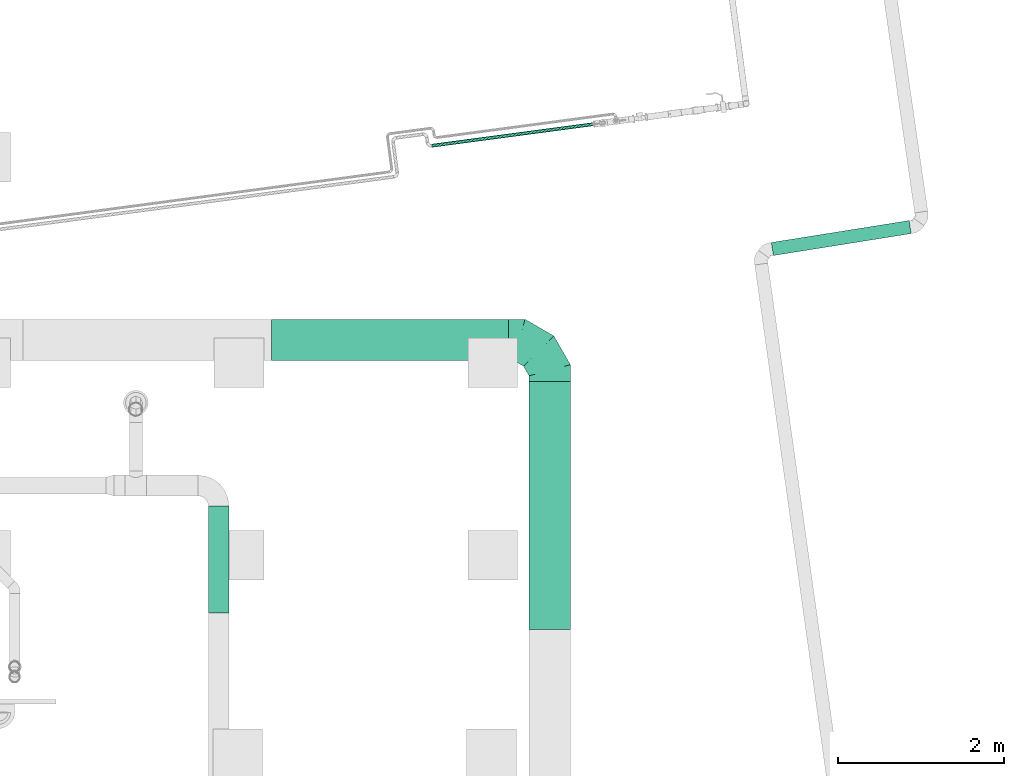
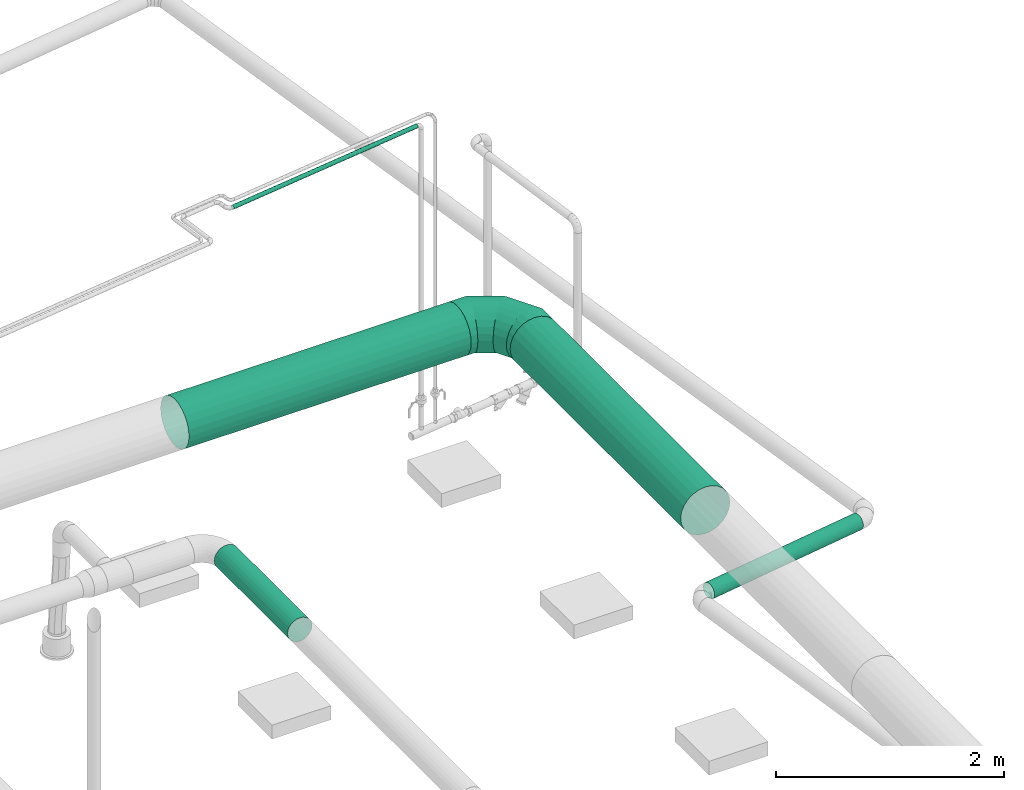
# One storey, part 228 of 374: 5 flow segments, 1 flow fitting.
"""IFC2X3 building model written with IfcOpenShell, lengths in metres."""

from ifc_helpers import new_model, si_unit, direction, origin, place, context, subcontext, project, spatial, open_shell, surface_model, source, transform, mapped, element, save


model = new_model("IFC2X3")

# Units and contexts
model_context = context("Model", 3, precision=1e-05, world=origin(), true_north=direction((-0.4480736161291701, 0.8939966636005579)))
body_context = subcontext(model_context, "Body", "Model", "MODEL_VIEW")
ifc_project = project(units=[si_unit("LENGTHUNIT", "METRE"), si_unit("AREAUNIT", "SQUARE_METRE"), si_unit("VOLUMEUNIT", "CUBIC_METRE"), si_unit("PLANEANGLEUNIT", "RADIAN"), si_unit("THERMODYNAMICTEMPERATUREUNIT", "KELVIN"), si_unit("MASSUNIT", "GRAM", prefix="KILO"), si_unit("TIMEUNIT", "SECOND")], contexts=[model_context])

# Site, building, storey
site_placement = place(None, origin())
site = spatial("IfcSite", under=ifc_project, at=site_placement, Name="Site 1", CompositionType="ELEMENT")
building_placement = place(site_placement, origin())
building = spatial("IfcBuilding", under=site, at=building_placement, Name="Undefined", CompositionType="ELEMENT")
storey_placement = place(building_placement, origin())
storey = spatial("IfcBuildingStorey", under=building, at=storey_placement, Name="Rez de chauss\x8ee", CompositionType="ELEMENT", Elevation=0.0)

# Flow segments
shared_shape_1 = source(origin(), body_context, "Body", "SurfaceModel", [
    surface_model("IfcFaceBasedSurfaceModel", [(1.869014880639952e-07, 0.02088419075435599, 6.66133815e-16), (0.0, 0.0, 0.0), (1.6850571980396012, -8.8817842e-16, 6.66133815e-16), (1.6850573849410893, 0.02088419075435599, 6.66133815e-16), (-1.741644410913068e-07, -0.020172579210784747, -0.0054052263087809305), (1.6850570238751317, -0.02017257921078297, -0.005405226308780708), (-3.237228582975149e-07, -0.03825881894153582, -0.01584732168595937), (1.6850568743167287, -0.03825881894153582, -0.01584732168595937), (-4.3848305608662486e-07, -0.05302617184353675, -0.030614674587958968), (1.685056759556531, -0.05302617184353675, -0.030614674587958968), (-5.106243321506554e-07, -0.06346826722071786, -0.04870091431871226), (1.6850566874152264, -0.06346826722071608, -0.04870091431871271), (-5.352303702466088e-07, -0.06887349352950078, -0.06887349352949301), (1.6850566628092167, -0.06887349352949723, -0.06887349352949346), (-5.106243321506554e-07, -0.0688734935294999, -0.08975768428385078), (1.6850566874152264, -0.06887349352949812, -0.08975768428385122), (-4.3848305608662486e-07, -0.06346826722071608, -0.10993026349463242), (1.685056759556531, -0.06346826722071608, -0.10993026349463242), (-3.237228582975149e-07, -0.05302617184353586, -0.1280165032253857), (1.6850568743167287, -0.05302617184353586, -0.1280165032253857), (-1.741644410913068e-07, -0.038258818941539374, -0.14278385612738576), (1.6850570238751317, -0.0382588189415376, -0.1427838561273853), (0.0, -0.020172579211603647, -0.15322595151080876), (1.6850571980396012, -0.02017257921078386, -0.15322595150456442), (1.869014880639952e-07, -2.664535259e-15, -0.15863117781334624), (1.6850573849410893, -2.664535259e-15, -0.15863117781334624), (3.738029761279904e-07, 0.02088419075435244, -0.15863117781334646), (1.685057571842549, 0.020884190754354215, -0.1586311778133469), (5.479674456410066e-07, 0.04105676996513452, -0.15322595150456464), (1.6850577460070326, 0.0410567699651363, -0.15322595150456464), (6.9752584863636e-07, 0.05914300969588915, -0.14278385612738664), (1.6850578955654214, 0.0591430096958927, -0.14278385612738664), (8.1228604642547e-07, 0.07391036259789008, -0.12801650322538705), (1.6850580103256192, 0.07391036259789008, -0.1280165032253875), (8.844273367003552e-07, 0.08435245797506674, -0.1099302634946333), (1.6850580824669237, 0.08435245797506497, -0.1099302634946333), (9.090333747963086e-07, 0.08975768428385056, -0.08975768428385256), (1.6850581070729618, 0.08975768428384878, -0.08975768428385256), (8.844273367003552e-07, 0.08975768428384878, -0.06887349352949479), (1.6850580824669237, 0.089757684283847, -0.06887349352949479), (8.1228604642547e-07, 0.0843524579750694, -0.048700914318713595), (1.6850580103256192, 0.0843524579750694, -0.04870091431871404), (6.9752584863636e-07, 0.07391036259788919, -0.0306146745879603), (1.6850578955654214, 0.07391036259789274, -0.0306146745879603), (5.479674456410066e-07, 0.05914300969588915, -0.015847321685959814), (1.6850577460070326, 0.059143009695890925, -0.015847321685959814), (3.738029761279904e-07, 0.04105676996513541, -0.0054052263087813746), (1.685057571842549, 0.041056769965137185, -0.005405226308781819)], [open_shell([[[0, 1, 2, 3]], [[1, 4, 5, 2]], [[4, 6, 7, 5]], [[6, 8, 9, 7]], [[8, 10, 11, 9]], [[10, 12, 13, 11]], [[12, 14, 15, 13]], [[14, 16, 17, 15]], [[16, 18, 19, 17]], [[18, 20, 21, 19]], [[20, 22, 23, 21]], [[22, 24, 25, 23]], [[24, 26, 27, 25]], [[26, 28, 29, 27]], [[28, 30, 31, 29]], [[30, 32, 33, 31]], [[32, 34, 35, 33]], [[34, 36, 37, 35]], [[36, 38, 39, 37]], [[38, 40, 41, 39]], [[40, 42, 43, 41]], [[42, 44, 45, 43]], [[44, 46, 47, 45]], [[46, 0, 3, 47]]])]),
])
flow_segment_1_placement = place(storey_placement, origin())
element("IfcFlowSegment", 1, at=flow_segment_1_placement, inside=storey, Name="PE-HD tuyau", ObjectType="PE-HD tuyau", context=body_context, shape_type="MappedRepresentation", body=[
    mapped(shared_shape_1, transform((67.9837818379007, 18.792402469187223, -0.7163137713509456), x_axis=(0.9875290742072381, 0.15743674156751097, 0.0), y_axis=(-0.15608984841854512, 0.9790806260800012, 0.13052619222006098), z_axis=(0.020549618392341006, -0.12889840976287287, 0.9914448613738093))),
])
shared_shape_2 = source(origin(), body_context, "Body", "SurfaceModel", [
    surface_model("IfcFaceBasedSurfaceModel", [(0.0, 0.03263154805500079, 0.0), (0.0, 0.0, 0.0), (1.2899986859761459, -7.105427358e-15, 0.0), (1.2899986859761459, 0.032631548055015, 1.776356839e-15), (0.0, -0.031519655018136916, -0.008445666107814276), (1.2899986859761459, -0.03151965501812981, -0.008445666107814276), (0.0, -0.05977940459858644, -0.024761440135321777), (1.2899986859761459, -0.05977940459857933, -0.02476144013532), (0.0, -0.08285339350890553, -0.047835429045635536), (1.2899986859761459, -0.08285339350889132, -0.047835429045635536), (0.0, -0.09916916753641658, -0.07609517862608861), (1.2899986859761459, -0.09916916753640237, -0.07609517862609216), (0.0, -0.1076148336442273, -0.10761483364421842), (1.2899986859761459, -0.10761483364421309, -0.1076148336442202), (0.0, -0.1076148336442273, -0.14024638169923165), (1.2899986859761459, -0.10761483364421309, -0.14024638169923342), (0.0, -0.09916916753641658, -0.17176603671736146), (1.2899986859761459, -0.09916916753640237, -0.17176603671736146), (0.0, -0.08285339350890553, -0.2000257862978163), (1.2899986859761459, -0.08285339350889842, -0.2000257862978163), (0.0, -0.059779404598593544, -0.22309977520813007), (1.2899986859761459, -0.05977940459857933, -0.22309977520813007), (0.0, -0.03151965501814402, -0.23941554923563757), (1.2899986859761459, -0.03151965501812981, -0.23941554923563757), (0.0, -1.4210854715e-14, -0.24786121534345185), (1.2899986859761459, 0.0, -0.24786121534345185), (0.0, 0.03263154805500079, -0.24786121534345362), (1.2899986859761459, 0.032631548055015, -0.24786121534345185), (0.0, 0.0641512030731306, -0.23941554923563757), (1.2899986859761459, 0.06415120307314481, -0.23941554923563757), (0.0, 0.09241095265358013, -0.22309977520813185), (1.2899986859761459, 0.09241095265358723, -0.2230997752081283), (0.0, 0.11548494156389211, -0.2000257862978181), (1.2899986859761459, 0.11548494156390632, -0.20002578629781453), (0.0, 0.13180071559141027, -0.171766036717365), (1.2899986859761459, 0.13180071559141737, -0.17176603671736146), (0.0, 0.140246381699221, -0.1402463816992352), (1.2899986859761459, 0.1402463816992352, -0.14024638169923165), (0.0, 0.140246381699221, -0.10761483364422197), (1.2899986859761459, 0.1402463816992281, -0.10761483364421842), (0.0, 0.13180071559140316, -0.07609517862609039), (1.2899986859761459, 0.13180071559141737, -0.07609517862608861), (0.0, 0.11548494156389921, -0.04783542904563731), (1.2899986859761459, 0.11548494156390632, -0.04783542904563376), (0.0, 0.09241095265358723, -0.024761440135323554), (1.2899986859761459, 0.09241095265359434, -0.024761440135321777), (0.0, 0.06415120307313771, -0.008445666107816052), (1.2899986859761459, 0.06415120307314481, -0.008445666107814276)], [open_shell([[[0, 1, 2, 3]], [[1, 4, 5, 2]], [[4, 6, 7, 5]], [[6, 8, 9, 7]], [[8, 10, 11, 9]], [[10, 12, 13, 11]], [[12, 14, 15, 13]], [[14, 16, 17, 15]], [[16, 18, 19, 17]], [[18, 20, 21, 19]], [[20, 22, 23, 21]], [[22, 24, 25, 23]], [[24, 26, 27, 25]], [[26, 28, 29, 27]], [[28, 30, 31, 29]], [[30, 32, 33, 31]], [[32, 34, 35, 33]], [[34, 36, 37, 35]], [[36, 38, 39, 37]], [[38, 40, 41, 39]], [[40, 42, 43, 41]], [[42, 44, 45, 43]], [[44, 46, 47, 45]], [[46, 0, 3, 47]]])]),
])
flow_segment_2_placement = place(storey_placement, origin())
element("IfcFlowSegment", 2, at=flow_segment_2_placement, inside=storey, Name="Tube", ObjectType="Tube", context=body_context, shape_type="MappedRepresentation", body=[
    mapped(shared_shape_2, transform((61.32183991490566, 14.414999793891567, 3.920740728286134), x_axis=(0.0, 1.0, 0.0), y_axis=(-0.9914448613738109, 0.0, 0.1305261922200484), z_axis=(0.1305261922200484, 0.0, 0.9914448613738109))),
])
shared_shape_3 = source(origin(), body_context, "Body", "SurfaceModel", [
    surface_model("IfcFaceBasedSurfaceModel", [(0.0, 0.0652630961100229, -3.552713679e-15), (0.0, 0.0, 0.0), (2.8650125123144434, 3.552713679e-15, -4.4408921e-16), (2.8650125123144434, 0.0652630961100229, -4.4408921e-16), (0.0, -0.06303931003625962, -0.01689133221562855), (2.8650125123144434, -0.06303931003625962, -0.01689133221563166), (0.0, -0.11955880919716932, -0.049522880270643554), (2.8650125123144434, -0.11955880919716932, -0.04952288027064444), (0.0, -0.1657067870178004, -0.09567085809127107), (2.8650125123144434, -0.1657067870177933, -0.09567085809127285), (0.0, -0.1983383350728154, -0.15219035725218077), (2.8650125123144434, -0.1983383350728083, -0.15219035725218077), (0.0, -0.2152296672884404, -0.2152296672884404), (2.8650125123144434, -0.2152296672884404, -0.21522966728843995), (0.0, -0.2152296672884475, -0.28049276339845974), (2.8650125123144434, -0.21522966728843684, -0.2804927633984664), (0.0, -0.1983383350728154, -0.3435320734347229), (2.8650125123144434, -0.1983383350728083, -0.3435320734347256), (0.0, -0.1657067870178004, -0.4000515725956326), (2.8650125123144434, -0.16570678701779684, -0.40005157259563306), (0.0, -0.11955880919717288, -0.44619955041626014), (2.8650125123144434, -0.11955880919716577, -0.4461995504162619), (0.0, -0.06303931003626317, -0.47883109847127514), (2.8650125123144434, -0.06303931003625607, -0.47883109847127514), (0.0, -7.105427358e-15, -0.49572243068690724), (2.8650125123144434, 0.0, -0.49572243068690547), (0.0, 0.0652630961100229, -0.4957224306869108), (2.8650125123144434, 0.0652630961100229, -0.49572243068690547), (0.0, 0.12830240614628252, -0.47883109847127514), (2.8650125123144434, 0.12830240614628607, -0.47883109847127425), (0.0, 0.18482190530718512, -0.4461995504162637), (2.8650125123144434, 0.18482190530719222, -0.44619955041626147), (0.0, 0.2309698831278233, -0.4000515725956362), (2.8650125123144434, 0.2309698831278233, -0.40005157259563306), (0.0, 0.26360143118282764, -0.34353207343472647), (2.8650125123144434, 0.26360143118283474, -0.34353207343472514), (0.0, 0.2804927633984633, -0.2804927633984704), (2.8650125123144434, 0.28049276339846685, -0.2804927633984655), (0.0, 0.28049276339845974, -0.2152296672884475), (2.8650125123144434, 0.2804927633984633, -0.2152296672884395), (0.0, 0.2636014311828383, -0.15219035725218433), (2.8650125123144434, 0.2636014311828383, -0.15219035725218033), (0.0, 0.2309698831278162, -0.09567085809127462), (2.8650125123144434, 0.23096988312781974, -0.09567085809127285), (0.0, 0.18482190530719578, -0.049522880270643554), (2.8650125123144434, 0.18482190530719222, -0.049522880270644), (0.0, 0.12830240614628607, -0.016891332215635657), (2.8650125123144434, 0.12830240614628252, -0.016891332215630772)], [open_shell([[[0, 1, 2, 3]], [[1, 4, 5, 2]], [[4, 6, 7, 5]], [[6, 8, 9, 7]], [[8, 10, 11, 9]], [[10, 12, 13, 11]], [[12, 14, 15, 13]], [[14, 16, 17, 15]], [[16, 18, 19, 17]], [[18, 20, 21, 19]], [[20, 22, 23, 21]], [[22, 24, 25, 23]], [[24, 26, 27, 25]], [[26, 28, 29, 27]], [[28, 30, 31, 29]], [[30, 32, 33, 31]], [[32, 34, 35, 33]], [[34, 36, 37, 35]], [[36, 38, 39, 37]], [[38, 40, 41, 39]], [[40, 42, 43, 41]], [[42, 44, 45, 43]], [[44, 46, 47, 45]], [[46, 0, 3, 47]]])]),
])
flow_segment_3_placement = place(storey_placement, origin())
element("IfcFlowSegment", 3, at=flow_segment_3_placement, inside=storey, Name="Tube", ObjectType="Tube", context=body_context, shape_type="MappedRepresentation", body=[
    mapped(shared_shape_3, transform((61.924995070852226, 17.649561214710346, 4.041481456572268), x_axis=(1.0, 0.0, 0.0), y_axis=(0.0, 0.9914448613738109, 0.1305261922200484), z_axis=(0.0, -0.1305261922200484, 0.9914448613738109))),
])

# Flow fitting
shared_shape_4 = source(origin(), body_context, "Body", "SurfaceModel", [
    surface_model("IfcFaceBasedSurfaceModel", [(0.1339745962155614, 7.105427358e-15, 1.776356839e-15), (0.1339745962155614, 0.06526309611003, 0.0), (0.017337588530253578, 0.06526309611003, 0.0), (0.0, 0.0, 0.0), (0.1339745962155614, 0.12830240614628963, -0.01689133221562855), (0.033493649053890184, 0.12830240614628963, -0.01689133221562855), (0.1339745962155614, 0.18482190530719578, -0.04952288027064), (0.04736717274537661, 0.18482190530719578, -0.04952288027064), (0.1339745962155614, 0.23096988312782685, -0.09567085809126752), (0.05801270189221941, 0.23096988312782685, -0.09567085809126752), (0.1339745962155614, 0.26360143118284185, -0.15219035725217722), (0.06470476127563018, 0.26360143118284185, -0.15219035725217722), (0.1339745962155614, 0.2804927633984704, -0.2152296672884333), (0.06698729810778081, 0.2804927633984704, -0.2152296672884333), (0.1339745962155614, 0.2804927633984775, -0.2804927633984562), (0.06470476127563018, 0.2804927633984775, -0.2804927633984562), (0.1339745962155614, 0.26360143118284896, -0.34353207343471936), (0.05801270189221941, 0.26360143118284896, -0.34353207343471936), (0.1339745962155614, 0.23096988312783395, -0.40005157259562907), (0.04736717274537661, 0.23096988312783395, -0.40005157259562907), (0.1339745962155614, 0.18482190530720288, -0.44619955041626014), (0.033493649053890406, 0.18482190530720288, -0.44619955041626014), (0.1339745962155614, 0.12830240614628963, -0.4788310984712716), (0.017337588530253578, 0.12830240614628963, -0.4788310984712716), (0.1339745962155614, 0.06526309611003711, -0.4957224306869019), (0.0, 0.0652630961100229, -0.4957224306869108), (0.1339745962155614, 7.105427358e-15, -0.4957224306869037), (-0.0173375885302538, 7.105427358e-15, -0.4957224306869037), (0.1339745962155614, -0.06303931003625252, -0.4788310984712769), (-0.033493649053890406, -0.06303931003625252, -0.4788310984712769), (0.1339745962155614, -0.11955880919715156, -0.4461995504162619), (-0.047367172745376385, -0.11955880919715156, -0.4461995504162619), (0.1339745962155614, -0.16570678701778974, -0.4000515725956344), (-0.05801270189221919, -0.16570678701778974, -0.4000515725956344), (0.1339745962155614, -0.19833833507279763, -0.3435320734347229), (-0.06470476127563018, -0.19833833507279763, -0.3435320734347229), (0.1339745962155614, -0.2152296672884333, -0.28049276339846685), (-0.06698729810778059, -0.2152296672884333, -0.28049276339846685), (0.1339745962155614, -0.2152296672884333, -0.21522966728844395), (-0.06470476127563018, -0.2152296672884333, -0.21522966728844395), (0.1339745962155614, -0.19833833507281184, -0.15219035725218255), (-0.05801270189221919, -0.19833833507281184, -0.15219035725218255), (0.1339745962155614, -0.16570678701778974, -0.09567085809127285), (-0.04736717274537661, -0.16570678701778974, -0.09567085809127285), (0.1339745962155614, -0.11955880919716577, -0.04952288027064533), (-0.033493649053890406, -0.11955880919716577, -0.04952288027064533), (0.1339745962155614, -0.06303931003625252, -0.016891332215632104), (-0.0173375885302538, -0.06303931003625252, -0.016891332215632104), (-0.1846836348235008, 0.18090225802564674, 0.015224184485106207), (-0.23205080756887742, 0.13282842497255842, 0.017487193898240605), (-0.14054445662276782, 0.22792372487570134, -0.0037759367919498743), (-0.10264128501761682, 0.27068839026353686, -0.03821834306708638), (-0.07355715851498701, 0.3062819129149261, -0.08575584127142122), (-0.05527411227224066, 0.33227865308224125, -0.143148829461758), (-0.049038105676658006, 0.3469069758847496, -0.20648607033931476), (-0.05527411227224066, 0.3491699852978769, -0.27145123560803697), (-0.07355715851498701, 0.33891346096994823, -0.33361705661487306), (-0.10264128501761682, 0.31683636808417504, -0.38874703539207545), (-0.14054445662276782, 0.2844432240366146, -0.43308415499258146), (-0.1846836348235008, 0.24394156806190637, -0.4636069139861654), (-0.23205080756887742, 0.19809152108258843, -0.4782352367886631), (-0.2794179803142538, 0.150017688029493, -0.47597222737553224), (-0.32355715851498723, 0.10299622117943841, -0.4569721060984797), (-0.3614603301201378, 0.060231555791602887, -0.42252969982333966), (-0.3905444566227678, 0.024638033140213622, -0.37499220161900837), (-0.4088275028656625, -0.0013587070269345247, -0.3175992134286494), (-0.4150635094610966, -0.015987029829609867, -0.2542619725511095), (-0.40882750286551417, -0.018250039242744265, -0.18929680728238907), (-0.3905444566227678, -0.007993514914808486, -0.12713098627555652), (-0.3614603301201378, 0.014083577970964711, -0.07200100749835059), (-0.32355715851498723, 0.04647672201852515, -0.027663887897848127), (-0.279417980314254, 0.08697837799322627, 0.0028588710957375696), (-0.3013206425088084, 0.38119516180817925, 0.0415932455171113), (-0.3660254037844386, 0.3628940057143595, 0.047775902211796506), (-0.2410254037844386, 0.40047291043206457, 0.01894059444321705), (-0.18924870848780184, 0.41941350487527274, -0.018638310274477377), (-0.149519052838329, 0.4367261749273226, -0.06858252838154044), (-0.12454394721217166, 0.4512310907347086, -0.1274884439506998), (-0.1160254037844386, 0.4619397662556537, -0.19134171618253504), (-0.12454394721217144, 0.46812242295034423, -0.2557908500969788), (-0.149519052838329, 0.4693577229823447, -0.3164437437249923), (-0.18924870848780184, 0.4655614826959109, -0.36916700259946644), (-0.2410254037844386, 0.4569924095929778, -0.41036762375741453), (-0.3013206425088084, 0.44423447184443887, -0.4372378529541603), (-0.3660254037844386, 0.4281571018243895, -0.4479465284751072), (-0.4307301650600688, 0.4098559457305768, -0.44176387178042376), (-0.4910254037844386, 0.3905781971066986, -0.41911122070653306), (-0.5428020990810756, 0.37163760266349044, -0.3815323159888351), (-0.5825317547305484, 0.3543249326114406, -0.331588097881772), (-0.6075068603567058, 0.3398200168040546, -0.27268218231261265), (-0.6160254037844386, 0.3291113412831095, -0.20882891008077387), (-0.6075068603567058, 0.32292868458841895, -0.14437977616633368), (-0.5825317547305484, 0.3216933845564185, -0.08372688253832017), (-0.5428020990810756, 0.32548962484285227, -0.031003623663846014), (-0.4910254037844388, 0.33405869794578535, 0.010196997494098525), (-0.4307301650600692, 0.3468166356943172, 0.03706722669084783), (-0.3013206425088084, 0.496834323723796, 0.05681743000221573), (-0.3660254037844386, 0.4957224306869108, 0.06526309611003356), (-0.2410254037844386, 0.5000942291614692, 0.03205598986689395), (-0.18924870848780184, 0.5052799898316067, -0.007333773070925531), (-0.149519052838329, 0.5120382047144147, -0.05866751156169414), (-0.12454394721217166, 0.519908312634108, -0.11844691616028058), (-0.1160254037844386, 0.5283539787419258, -0.1825981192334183), (-0.12454394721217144, 0.5367996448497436, -0.24674932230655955), (-0.149519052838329, 0.5446697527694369, -0.306528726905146), (-0.18924870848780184, 0.5514279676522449, -0.3578624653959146), (-0.2410254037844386, 0.5566137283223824, -0.39725222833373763), (-0.30132064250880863, 0.5598736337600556, -0.42201366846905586), (-0.3660254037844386, 0.5609855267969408, -0.43045933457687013), (-0.430730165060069, 0.5598736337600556, -0.42201366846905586), (-0.4910254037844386, 0.5566137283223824, -0.39725222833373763), (-0.5428020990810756, 0.5514279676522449, -0.3578624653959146), (-0.5825317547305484, 0.5446697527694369, -0.306528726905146), (-0.6075068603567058, 0.5367996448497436, -0.24674932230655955), (-0.6160254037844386, 0.5283539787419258, -0.1825981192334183), (-0.6075068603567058, 0.519908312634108, -0.11844691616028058), (-0.5825317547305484, 0.5120382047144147, -0.05866751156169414), (-0.5428020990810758, 0.5052799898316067, -0.007333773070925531), (-0.4910254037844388, 0.5000942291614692, 0.03205598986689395), (-0.4307301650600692, 0.496834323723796, 0.05681743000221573)], [open_shell([[[0, 1, 2, 3]], [[1, 4, 5, 2]], [[4, 6, 7, 5]], [[6, 8, 9, 7]], [[8, 10, 11, 9]], [[10, 12, 13, 11]], [[12, 14, 15, 13]], [[14, 16, 17, 15]], [[16, 18, 19, 17]], [[18, 20, 21, 19]], [[20, 22, 23, 21]], [[22, 24, 25, 23]], [[24, 26, 27, 25]], [[26, 28, 29, 27]], [[28, 30, 31, 29]], [[30, 32, 33, 31]], [[32, 34, 35, 33]], [[34, 36, 37, 35]], [[36, 38, 39, 37]], [[38, 40, 41, 39]], [[40, 42, 43, 41]], [[42, 44, 45, 43]], [[44, 46, 47, 45]], [[46, 0, 3, 47]], [[3, 2, 48, 49]], [[2, 5, 50, 48]], [[5, 7, 51, 50]], [[7, 9, 52, 51]], [[9, 11, 53, 52]], [[11, 13, 54, 53]], [[13, 15, 55, 54]], [[15, 17, 56, 55]], [[17, 19, 57, 56]], [[19, 21, 58, 57]], [[21, 23, 59, 58]], [[23, 25, 60, 59]], [[25, 27, 61, 60]], [[27, 29, 62, 61]], [[29, 31, 63, 62]], [[31, 33, 64, 63]], [[33, 35, 65, 64]], [[35, 37, 66, 65]], [[37, 39, 67, 66]], [[39, 41, 68, 67]], [[41, 43, 69, 68]], [[43, 45, 70, 69]], [[45, 47, 71, 70]], [[47, 3, 49, 71]], [[49, 48, 72, 73]], [[48, 50, 74, 72]], [[50, 51, 75, 74]], [[51, 52, 76, 75]], [[52, 53, 77, 76]], [[53, 54, 78, 77]], [[54, 55, 79, 78]], [[55, 56, 80, 79]], [[56, 57, 81, 80]], [[57, 58, 82, 81]], [[58, 59, 83, 82]], [[59, 60, 84, 83]], [[60, 61, 85, 84]], [[61, 62, 86, 85]], [[62, 63, 87, 86]], [[63, 64, 88, 87]], [[64, 65, 89, 88]], [[65, 66, 90, 89]], [[66, 67, 91, 90]], [[67, 68, 92, 91]], [[68, 69, 93, 92]], [[69, 70, 94, 93]], [[70, 71, 95, 94]], [[71, 49, 73, 95]], [[73, 72, 96, 97]], [[72, 74, 98, 96]], [[74, 75, 99, 98]], [[75, 76, 100, 99]], [[76, 77, 101, 100]], [[77, 78, 102, 101]], [[78, 79, 103, 102]], [[79, 80, 104, 103]], [[80, 81, 105, 104]], [[81, 82, 106, 105]], [[82, 83, 107, 106]], [[83, 84, 108, 107]], [[84, 85, 109, 108]], [[85, 86, 110, 109]], [[86, 87, 111, 110]], [[87, 88, 112, 111]], [[88, 89, 113, 112]], [[89, 90, 114, 113]], [[90, 91, 115, 114]], [[91, 92, 116, 115]], [[92, 93, 117, 116]], [[93, 94, 118, 117]], [[94, 95, 119, 118]], [[95, 73, 97, 119]]])]),
])
flow_fitting_placement = place(storey_placement, origin())
element("IfcFlowFitting", 4, at=flow_fitting_placement, inside=storey, Name="Coude à segment 4 parties", ObjectType="Coude à segment 4 parties", context=body_context, shape_type="MappedRepresentation", body=[
    mapped(shared_shape_4, transform((64.9239821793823, 17.714265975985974, 4.050000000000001), x_axis=(-1.0, 0.0, 0.0), y_axis=(0.0, -0.9914448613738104, -0.13052619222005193), z_axis=(0.0, -0.1305261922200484, 0.9914448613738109))),
])

# Flow segments
shared_shape_5 = source(origin(), body_context, "Body", "SurfaceModel", [
    surface_model("IfcFaceBasedSurfaceModel", [(3.0, 0.0, 0.0), (3.0, 0.0652630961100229, -4.4408921e-16), (0.0, 0.0652630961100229, -3.552713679e-15), (0.0, 0.0, 0.0), (3.0, 0.12830240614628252, -0.016891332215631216), (0.0, 0.12830240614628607, -0.016891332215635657), (3.0, 0.18482190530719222, -0.049522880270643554), (0.0, 0.18482190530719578, -0.049522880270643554), (3.0, 0.23096988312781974, -0.0956708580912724), (0.0, 0.2309698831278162, -0.09567085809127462), (3.0, 0.26360143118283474, -0.15219035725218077), (0.0, 0.2636014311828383, -0.15219035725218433), (3.0, 0.2804927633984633, -0.2152296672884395), (0.0, 0.28049276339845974, -0.2152296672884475), (3.0, 0.2804927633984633, -0.2804927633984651), (0.0, 0.2804927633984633, -0.2804927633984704), (3.0, 0.2636014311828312, -0.3435320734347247), (0.0, 0.26360143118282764, -0.34353207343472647), (3.0, 0.2309698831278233, -0.40005157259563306), (0.0, 0.2309698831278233, -0.4000515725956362), (3.0, 0.18482190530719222, -0.44619955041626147), (0.0, 0.18482190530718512, -0.4461995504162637), (3.0, 0.12830240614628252, -0.47883109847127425), (0.0, 0.12830240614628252, -0.47883109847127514), (3.0, 0.0652630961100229, -0.49572243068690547), (0.0, 0.0652630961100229, -0.4957224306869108), (3.0, -3.552713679e-15, -0.49572243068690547), (0.0, -7.105427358e-15, -0.49572243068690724), (3.0, -0.06303931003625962, -0.4788310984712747), (0.0, -0.06303931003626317, -0.47883109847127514), (3.0, -0.11955880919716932, -0.44619955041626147), (0.0, -0.11955880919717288, -0.44619955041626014), (3.0, -0.1657067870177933, -0.40005157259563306), (0.0, -0.1657067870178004, -0.4000515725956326), (3.0, -0.1983383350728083, -0.34353207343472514), (0.0, -0.1983383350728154, -0.3435320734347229), (3.0, -0.2152296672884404, -0.2804927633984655), (0.0, -0.2152296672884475, -0.28049276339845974), (3.0, -0.21522966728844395, -0.21522966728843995), (0.0, -0.2152296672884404, -0.2152296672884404), (3.0, -0.1983383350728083, -0.15219035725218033), (0.0, -0.1983383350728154, -0.15219035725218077), (3.0, -0.16570678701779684, -0.09567085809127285), (0.0, -0.1657067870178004, -0.09567085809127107), (3.0, -0.11955880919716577, -0.049522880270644), (0.0, -0.11955880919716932, -0.049522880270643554), (3.0, -0.06303931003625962, -0.016891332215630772), (0.0, -0.06303931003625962, -0.01689133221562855)], [open_shell([[[0, 1, 2, 3]], [[1, 4, 5, 2]], [[4, 6, 7, 5]], [[6, 8, 9, 7]], [[8, 10, 11, 9]], [[10, 12, 13, 11]], [[12, 14, 15, 13]], [[14, 16, 17, 15]], [[16, 18, 19, 17]], [[18, 20, 21, 19]], [[20, 22, 23, 21]], [[22, 24, 25, 23]], [[24, 26, 27, 25]], [[26, 28, 29, 27]], [[28, 30, 31, 29]], [[30, 32, 33, 31]], [[32, 34, 35, 33]], [[34, 36, 37, 35]], [[36, 38, 39, 37]], [[38, 40, 41, 39]], [[40, 42, 43, 41]], [[42, 44, 45, 43]], [[44, 46, 47, 45]], [[46, 0, 3, 47]]])]),
])
flow_segment_4_placement = place(storey_placement, origin())
element("IfcFlowSegment", 5, at=flow_segment_4_placement, inside=storey, Name="Tube", ObjectType="Tube", context=body_context, shape_type="MappedRepresentation", body=[
    mapped(shared_shape_5, transform((65.29000758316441, 14.214265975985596, 4.050000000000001), x_axis=(0.0, 1.0, 0.0), y_axis=(-0.9914448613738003, 0.0, -0.13052619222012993), z_axis=(-0.13052619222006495, 0.0, 0.9914448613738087))),
])
shared_shape_6 = source(origin(), body_context, "Body", "SurfaceModel", [
    surface_model("IfcFaceBasedSurfaceModel", [(2.0447181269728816, 0.0, 0.0), (2.0447181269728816, 0.005534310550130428, -1.776356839e-15), (0.0, 0.005534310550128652, 0.0), (0.0, 0.0, 0.0), (2.0447181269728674, 0.010880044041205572, -0.0014323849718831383), (0.0, 0.010880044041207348, -0.0014323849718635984), (2.0447181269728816, 0.015672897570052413, -0.004199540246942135), (0.0, 0.015672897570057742, -0.004199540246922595), (2.0447181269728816, 0.01958624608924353, -0.008112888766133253), (0.0, 0.019586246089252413, -0.008112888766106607), (2.044718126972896, 0.022353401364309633, -0.0129057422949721), (0.0, 0.022353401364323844, -0.012905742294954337), (2.0447181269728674, 0.0237857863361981, -0.01825147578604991), (0.0, 0.023785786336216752, -0.01825147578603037), (2.0447181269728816, 0.023785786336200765, -0.02378578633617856), (0.0, 0.02378578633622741, -0.023785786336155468), (2.0447181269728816, 0.022353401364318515, -0.029131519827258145), (0.0, 0.0223534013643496, -0.029131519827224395), (2.044718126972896, 0.019586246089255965, -0.0339243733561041), (0.0, 0.019586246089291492, -0.033924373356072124), (2.044718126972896, 0.015672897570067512, -0.03783772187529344), (0.0, 0.01567289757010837, -0.03783772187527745), (2.0447181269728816, 0.010880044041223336, -0.04060487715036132), (0.0, 0.010880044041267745, -0.04060487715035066), (2.044718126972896, 0.005534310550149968, -0.04203726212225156), (0.0, 0.005534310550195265, -0.04203726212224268), (2.0447181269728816, 1.9539925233e-14, -0.04203726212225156), (0.0, 6.4837024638e-14, -0.042037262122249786), (2.044718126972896, -0.005345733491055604, -0.040604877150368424), (0.0, -0.005345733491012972, -0.040604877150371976), (2.044718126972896, -0.010138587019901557, -0.03783772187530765), (0.0, -0.010138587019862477, -0.037837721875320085), (2.0447181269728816, -0.014051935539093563, -0.033924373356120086), (0.0, -0.014051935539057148, -0.03392437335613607), (2.0447181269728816, -0.016819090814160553, -0.029131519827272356), (0.0, -0.01681909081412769, -0.029131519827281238), (2.0447181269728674, -0.018251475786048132, -0.023785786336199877), (0.0, -0.0182514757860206, -0.02378578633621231), (2.044718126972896, -0.018251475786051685, -0.018251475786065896), (0.0, -0.018251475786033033, -0.018251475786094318), (2.0447181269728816, -0.01681909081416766, -0.012905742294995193), (0.0, -0.016819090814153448, -0.012905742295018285), (2.0447181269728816, -0.01405193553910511, -0.008112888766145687), (0.0, -0.01405193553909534, -0.008112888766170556), (2.0447181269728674, -0.010138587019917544, -0.004199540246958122), (0.0, -0.010138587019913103, -0.004199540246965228), (2.0447181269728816, -0.005345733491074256, -0.00143238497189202), (0.0, -0.00534573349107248, -0.0014323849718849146)], [open_shell([[[0, 1, 2, 3]], [[1, 4, 5, 2]], [[4, 6, 7, 5]], [[6, 8, 9, 7]], [[8, 10, 11, 9]], [[10, 12, 13, 11]], [[12, 14, 15, 13]], [[14, 16, 17, 15]], [[16, 18, 19, 17]], [[18, 20, 21, 19]], [[20, 22, 23, 21]], [[22, 24, 25, 23]], [[24, 26, 27, 25]], [[26, 28, 29, 27]], [[28, 30, 31, 29]], [[30, 32, 33, 31]], [[32, 34, 35, 33]], [[34, 36, 37, 35]], [[36, 38, 39, 37]], [[38, 40, 41, 39]], [[40, 42, 43, 41]], [[42, 44, 45, 43]], [[44, 46, 47, 45]], [[46, 0, 3, 47]]])]),
])
flow_segment_5_placement = place(storey_placement, origin())
element("IfcFlowSegment", 6, at=flow_segment_5_placement, inside=storey, Name="Tube acier d'après DIN 2448", ObjectType="Tube acier d'après DIN 2448", context=body_context, shape_type="MappedRepresentation", body=[
    mapped(shared_shape_6, transform((63.86881972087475, 20.040033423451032, 4.0051404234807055), x_axis=(0.9912155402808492, 0.13225639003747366, 0.0), y_axis=(-0.017262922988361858, 0.12937959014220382, 0.99144486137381), z_axis=(0.13112491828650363, -0.9827355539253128, 0.13052619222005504))),
])

save(model, "model.ifc")
